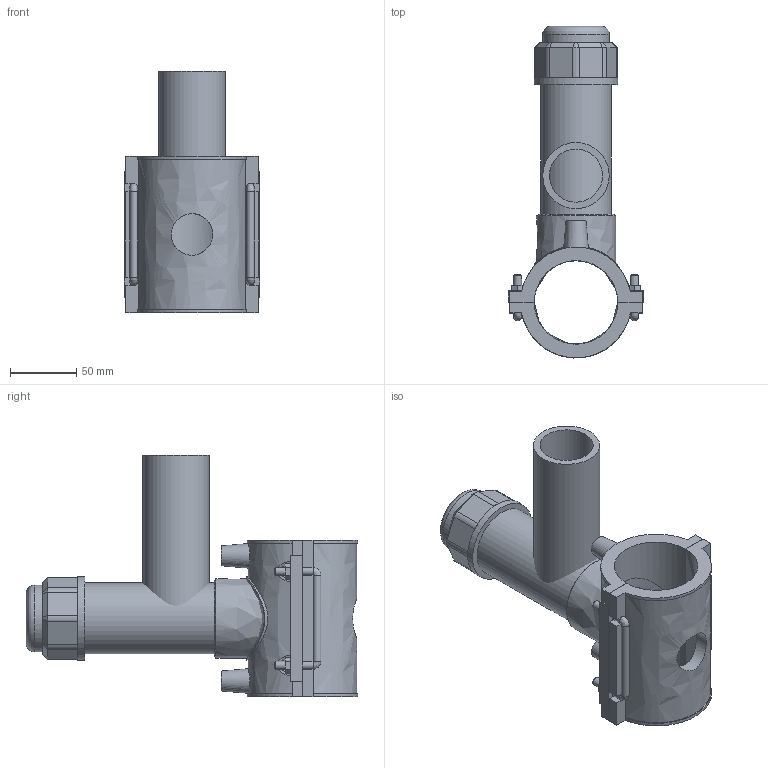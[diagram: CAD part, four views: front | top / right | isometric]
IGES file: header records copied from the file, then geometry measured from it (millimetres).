
Global section: file name: 4963P4063050; native system: Autodesk Inventor 2019; preprocessor: unknown; author: KIM; date: 20220317.112547; units: millimetre
Bounding box: 102 x 250.23 x 182 mm (x, y, z)
Volume: 627604.4 mm3; surface area: 175022.2 mm2
Topology: 3 solids, 3 shells, 179 faces, 462 edges, 297 vertices
Faces by surface type: bspline 179
